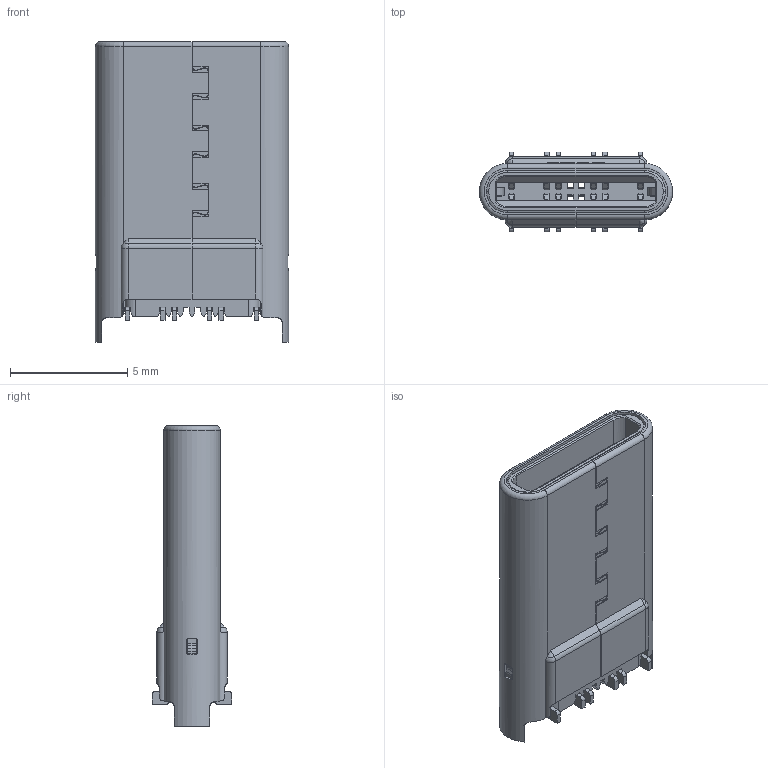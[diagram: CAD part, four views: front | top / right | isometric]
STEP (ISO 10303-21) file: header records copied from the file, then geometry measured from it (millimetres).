
FILE_DESCRIPTION((' '),'2;1');
FILE_NAME( 'U5413-12PE11.9L.stp', '2026-05-11T11:03:45', (' '), ('--- ---'), ' V2026.1 Dec 31 2025', ' 2026 (c)', ' ');
FILE_SCHEMA(('AP242_MANAGED_MODEL_BASED_3D_ENGINEERING_MIM_LF { 1 0 10303 442 1 1 4 }'));
Length unit declared in the file: millimetre
Products named in the file (3): _ASM0001; U5413-12PE11.9L(2); U5413-12PE11.9L
Assembly tree (2 placements, depth 3):
  U5413-12PE11.9L
    U5413-12PE11.9L(2)
      _ASM0001
Bounding box: 8.25 x 3.41 x 12.85 mm (x, y, z)
Volume: 160.2 mm3; surface area: 1221.7 mm2
Topology: 1 solids, 1 shells, 1227 faces, 3946 edges, 2593 vertices
Faces by surface type: plane 702, cylinder 472, bspline 29, cone 12, torus 8, sphere 4
Entity records: 45915 total; most frequent: CARTESIAN_POINT 10453, ORIENTED_EDGE 7874, DIRECTION 7087, EDGE_CURVE 3937, VECTOR 2791, LINE 2791, VERTEX_POINT 2593, AXIS2_PLACEMENT_3D 2148
